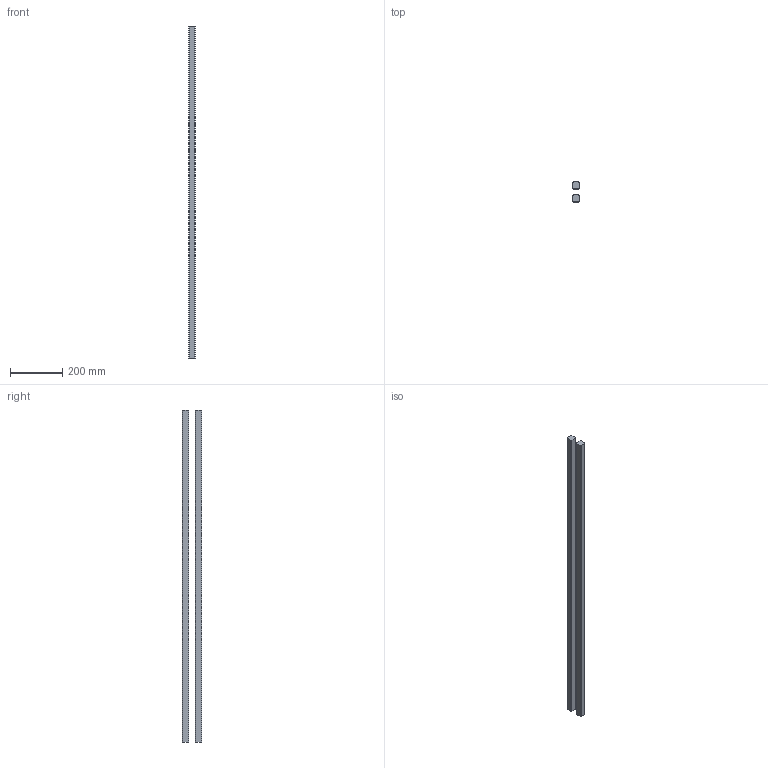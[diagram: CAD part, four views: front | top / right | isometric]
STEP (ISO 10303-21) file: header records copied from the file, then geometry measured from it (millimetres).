
FILE_DESCRIPTION (( 'STEP AP214' ), '1' );
FILE_NAME ('702328.STEP', '2025-10-01T09:19:45', ( '' ), ( '' ), 'SwSTEP 2.0', 'SolidWorks 2025', '' );
FILE_SCHEMA (( 'AUTOMOTIVE_DESIGN' ));
Length unit declared in the file: millimetre
Products named in the file (1): 702328
Bounding box: 25 x 75 x 1275 mm (x, y, z)
Volume: 1580069.1 mm3; surface area: 246533.8 mm2
Topology: 2 solids, 2 shells, 20 faces, 48 edges, 32 vertices
Faces by surface type: plane 12, cylinder 8
Entity records: 620 total; most frequent: DIRECTION 106, CARTESIAN_POINT 101, ORIENTED_EDGE 96, EDGE_CURVE 48, AXIS2_PLACEMENT_3D 37, VECTOR 32, LINE 32, VERTEX_POINT 32
